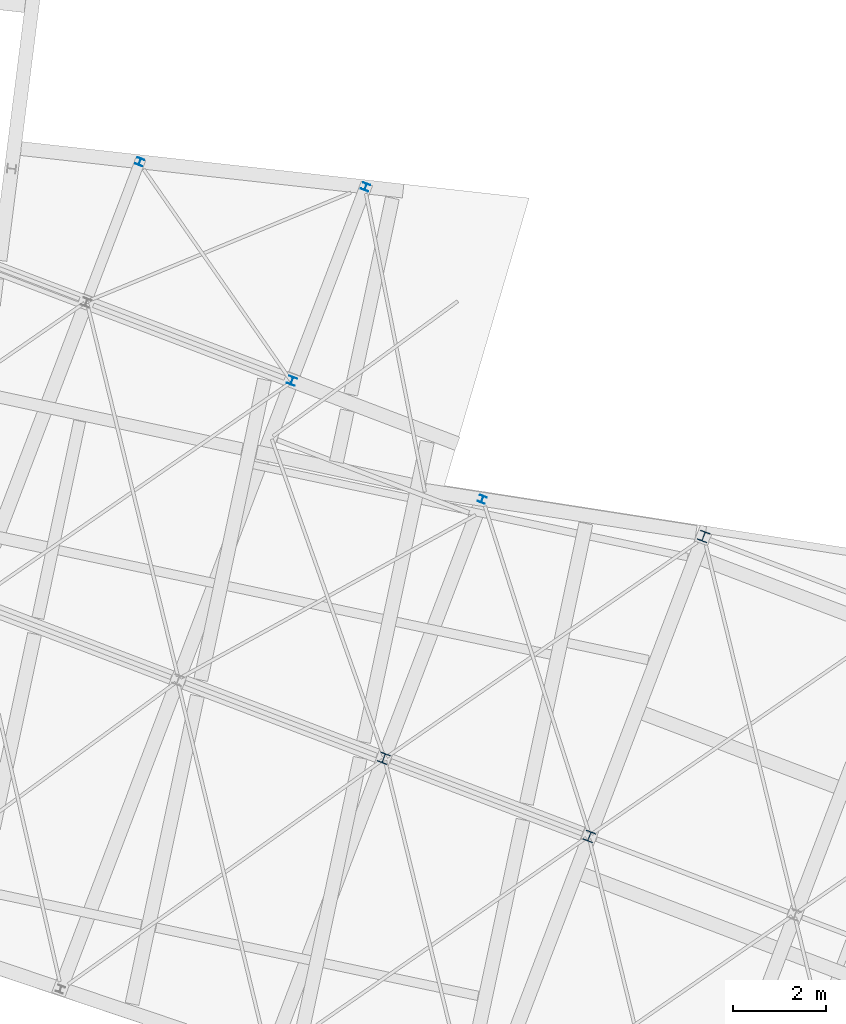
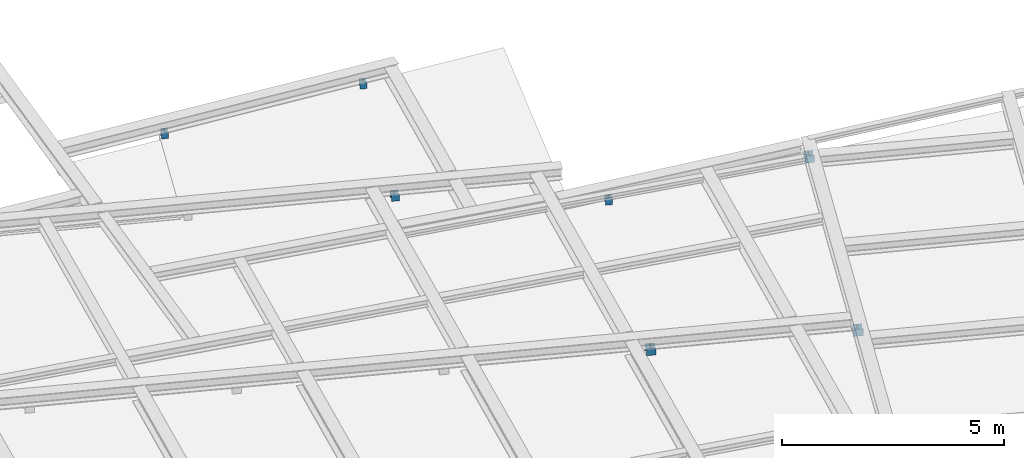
# One storey, part 4 of 21: 7 columns.
"""IFC2X3 building model written with IfcOpenShell, lengths in millimetres."""

from ifc_helpers import new_model, entity, si_unit, converted_unit, derived_unit, direction, frame, frame_2d, origin, origin_2d_with_axis, place, context, subcontext, project, spatial, i_section, extrude, source, transform, mapped, material, type_object, type_shapes, element, save


model = new_model("IFC2X3")

# Units and contexts
model_context = context("Model", 3, precision=0.01, world=origin(), true_north=direction((6.123233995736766e-17, 1.0)))
body_context = subcontext(model_context, "Body", "Model", "MODEL_VIEW")
ifc_project = project(units=[si_unit("LENGTHUNIT", "METRE", prefix="MILLI"), converted_unit("PLANEANGLEUNIT", "DEGREE", entity("IfcPlaneAngleMeasure", 0.017453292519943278), si_unit("PLANEANGLEUNIT", "RADIAN"), dimensions=[0, 0, 0, 0, 0, 0, 0]), si_unit("AREAUNIT", "SQUARE_METRE"), derived_unit("THERMALTRANSMITTANCEUNIT", [(si_unit("MASSUNIT", "GRAM", prefix="KILO"), 1), (si_unit("THERMODYNAMICTEMPERATUREUNIT", "KELVIN"), -1), (si_unit("TIMEUNIT", "SECOND"), -3)])], contexts=[model_context])

# Site, building, storey
site_placement = place(None, frame((-72937.88054949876, 11621.45624098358, 0.0), z_axis=(0.0, 0.0, 1.0), x_axis=(0.9346418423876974, -0.35559053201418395, 0.0)))
site = spatial("IfcSite", under=ifc_project, at=site_placement, Name="Default", CompositionType="ELEMENT")
building_placement = place(site_placement, origin())
building = spatial("IfcBuilding", under=site, at=building_placement, CompositionType="ELEMENT")
storey_placement = place(building_placement, frame((0.0, 0.0, 4250.0)))
storey = spatial("IfcBuildingStorey", under=building, at=storey_placement, Name="01 eerste verdieping", CompositionType="ELEMENT", Elevation=4250.0)

# Columns
ifc_material = material(Name="metaal_staal_generiek")
column_type_1 = type_object("IfcColumnType", Name="DIE16", PredefinedType="COLUMN", material=ifc_material)
shared_shape_1 = source(origin(), body_context, "Body", "SweptSolid", [
    extrude(i_section(OverallWidth=160.0, OverallDepth=152.0, WebThickness=5.999999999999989, FlangeThickness=9.000000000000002, FilletRadius=15.0, at=frame_2d((0.0, 7.105427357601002e-15), x_axis=(1.0, 0.0))), frame((0.0, 0.0, 4190.0), z_axis=(0.0, 0.0, 1.0), x_axis=(-1.0, 0.0, 0.0)), (0.0, 0.0, 1.0), 190.0000000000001),
])
type_shapes(column_type_1, [shared_shape_1])
for number, where in (
    (1, (33920.0, 27834.069685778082, -4250.0)),
    (2, (24460.0, 31997.17404166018, -4250.0)),
    (3, (29190.0, 33218.71762443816, -4250.0)),
):
    element("IfcColumn", number, at=place(storey_placement, frame(where)), inside=storey, type_object=column_type_1, material=ifc_material, Name="28.11_SCO_KolomHEA:DIE16", ObjectType="28.11_SCO_KolomHEA:DIE16", context=body_context, shape_type="MappedRepresentation", body=[
        mapped(shared_shape_1, transform((0.0, 0.0, 0.0), scale=1.0)),
    ])
column_type_2 = type_object("IfcColumnType", Name="DIE22", PredefinedType="COLUMN", material=ifc_material)
shared_shape_2 = source(origin(), body_context, "Body", "SweptSolid", [
    extrude(i_section(OverallWidth=219.99999999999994, OverallDepth=209.99999999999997, WebThickness=6.999999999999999, FlangeThickness=11.000000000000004, FilletRadius=18.0, at=origin_2d_with_axis()), frame((0.0, 0.0, 4190.0), z_axis=(0.0, 0.0, 1.0), x_axis=(-1.0, 0.0, 0.0)), (0.0, 0.0, 1.0), 189.99999999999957),
])
type_shapes(column_type_2, [shared_shape_2])
for number, where in (
    (4, (38650.0, 21880.0, -4250.0)),
    (5, (38650.0, 28780.0, -4250.0)),
    (6, (33920.0, 21880.0, -4250.0)),
):
    element("IfcColumn", number, at=place(storey_placement, frame(where)), inside=storey, type_object=column_type_2, material=ifc_material, Name="28.11_SCO_KolomHEA:DIE22", ObjectType="28.11_SCO_KolomHEA:DIE22", context=body_context, shape_type="MappedRepresentation", body=[
        mapped(shared_shape_2, transform((0.0, 0.0, 0.0), scale=1.0)),
    ])
column_type_3 = type_object("IfcColumnType", Name="DIE18", PredefinedType="COLUMN", material=ifc_material)
shared_shape_3 = source(origin(), body_context, "Body", "SweptSolid", [
    extrude(i_section(OverallWidth=180.0, OverallDepth=170.99999999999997, WebThickness=5.999999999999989, FlangeThickness=9.500000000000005, FilletRadius=15.0, at=origin_2d_with_axis()), frame((0.0, 0.0, 4190.0), z_axis=(0.0, 0.0, 1.0), x_axis=(-1.0, 0.0, 0.0)), (0.0, 0.0, 1.0), 190.0000000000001),
])
type_shapes(column_type_3, [shared_shape_3])
column_placement = place(storey_placement, frame((29190.0, 28760.0, -4250.0)))
element("IfcColumn", 7, at=column_placement, inside=storey, type_object=column_type_3, material=ifc_material, Name="28.11_SCO_KolomHEA:DIE18", ObjectType="28.11_SCO_KolomHEA:DIE18", context=body_context, shape_type="MappedRepresentation", body=[
    mapped(shared_shape_3, transform((0.0, 0.0, 0.0), scale=1.0)),
])

save(model, "model.ifc")
